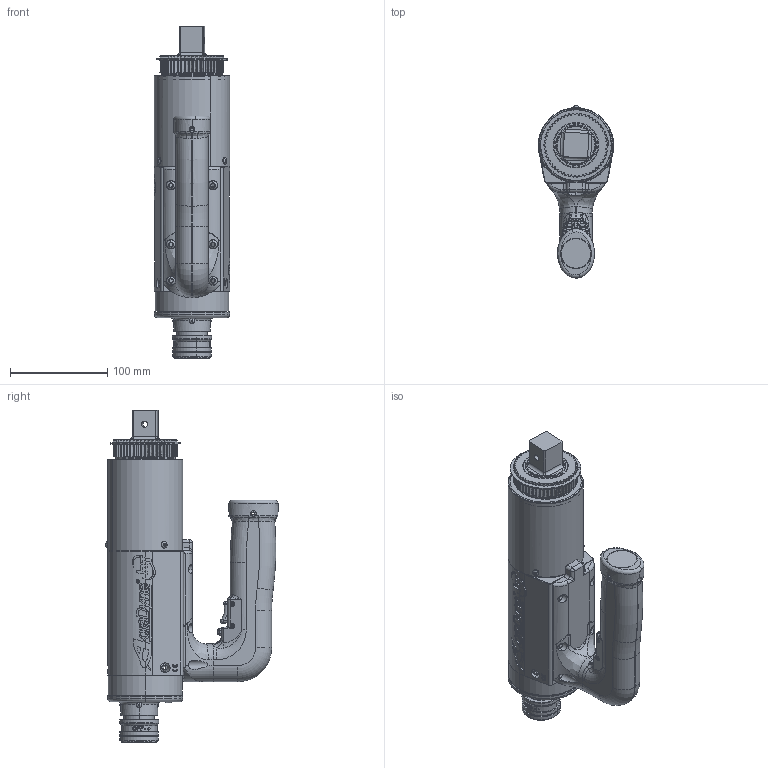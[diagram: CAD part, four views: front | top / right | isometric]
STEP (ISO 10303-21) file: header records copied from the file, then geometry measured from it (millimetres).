
FILE_DESCRIPTION (( 'STEP AP214' ), '1' );
FILE_NAME ('AEJ4A771200B.STEP', '2016-04-05T17:12:08', ( 'AIMCO' ), ( '' ), 'SwSTEP 2.0', 'SolidWorks 2016', '' );
FILE_SCHEMA (( 'AUTOMOTIVE_DESIGN' ));
Length unit declared in the file: inch
Products named in the file (1): AEJ4A771200B
Bounding box: 77.47 x 177.48 x 342.25 mm (x, y, z)
Surface area: 186996.1 mm2 (no closed solid volume)
Topology: 0 solids, 75 shells, 1303 faces, 4962 edges, 3532 vertices
Faces by surface type: cylinder 471, plane 354, bspline 218, torus 153, cone 99, sphere 8
Entity records: 125949 total; most frequent: CARTESIAN_POINT 71432, ORIENTED_EDGE 7846, DIRECTION 6828, EDGE_CURVE 4948, VERTEX_POINT 3530, AXIS2_PLACEMENT_3D 2538, LINE 1752, VECTOR 1752
